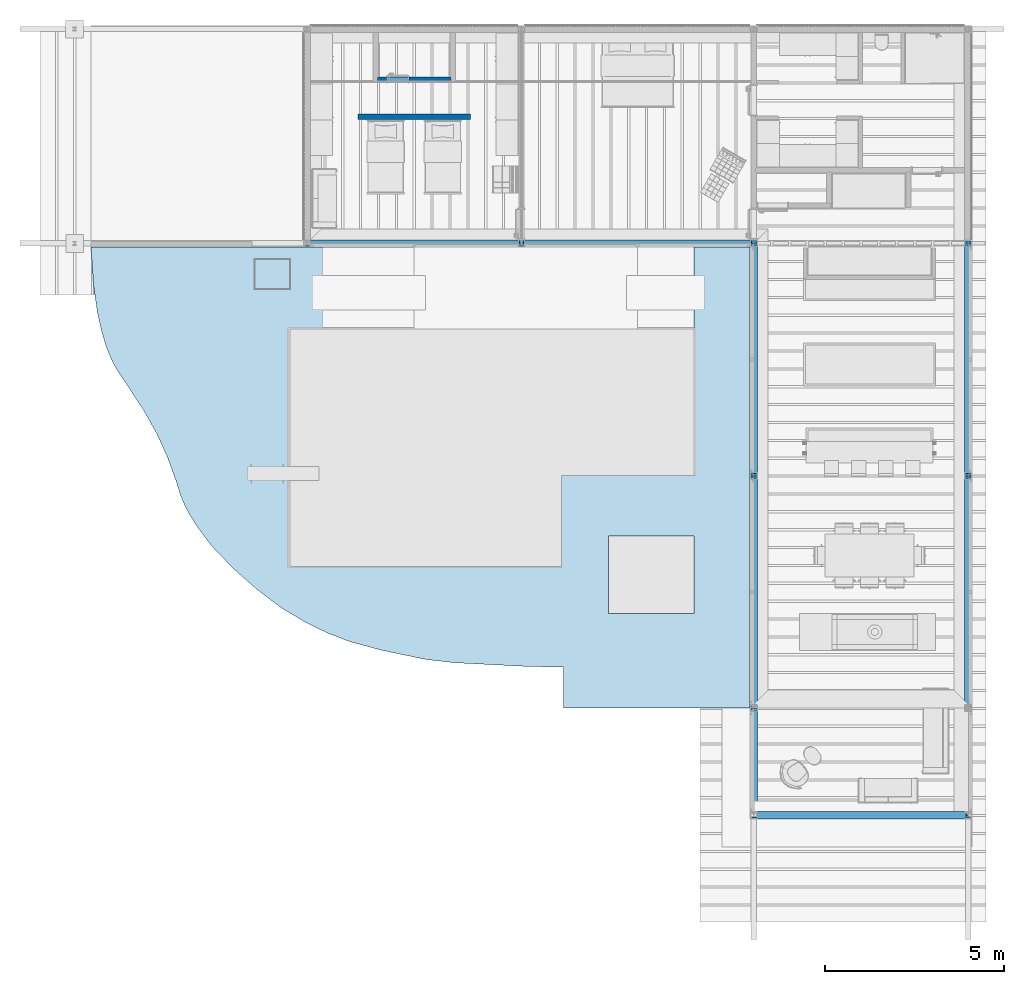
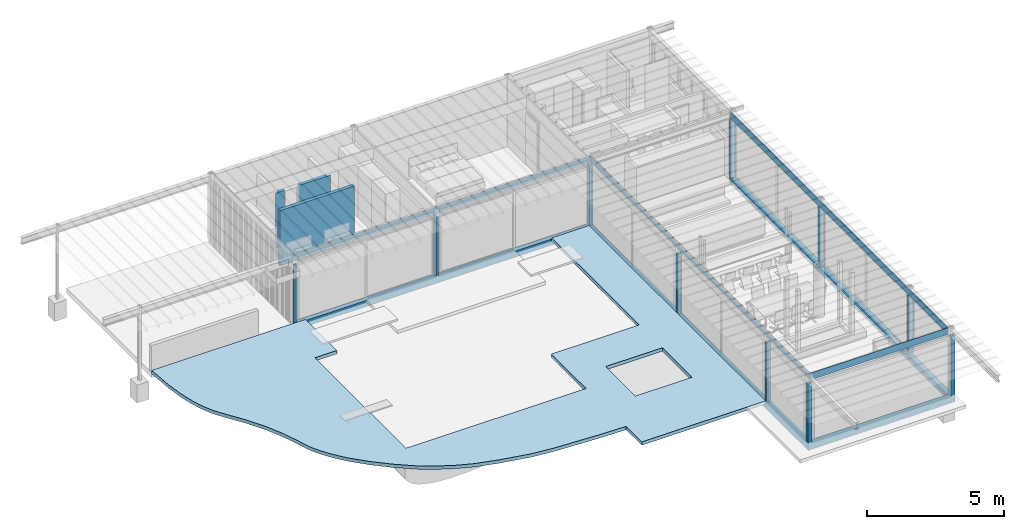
# One storey, part 15 of 28: 6 walls, 1 slab.
"""IFC4X3_ADD2 building model written with IfcOpenShell, lengths in metres."""

from ifc_helpers import new_model, si_unit, direction, frame, origin_with_axes, origin_2d_with_axis, place, context, subcontext, project, spatial, polyline, rectangle, outline, extrude, faceted_brep, source, transform, mapped, material, type_object, type_shapes, element, save


model = new_model("IFC4X3_ADD2")

# Units and contexts
model_context = context("Model", 3, precision=1e-05, world=origin_with_axes(), true_north=direction((0.0, 1.0)))
body_context = subcontext(model_context, "Body", "Model", "MODEL_VIEW")
ifc_project = project(units=[si_unit("LENGTHUNIT", "METRE"), si_unit("AREAUNIT", "SQUARE_METRE"), si_unit("VOLUMEUNIT", "CUBIC_METRE"), si_unit("PLANEANGLEUNIT", "RADIAN"), si_unit("TIMEUNIT", "SECOND"), si_unit("MASSUNIT", "GRAM")], contexts=[model_context])

# Site, building, storey
site_placement = place(None, origin_with_axes())
site = spatial("IfcSite", under=ifc_project, at=site_placement, Name="Site", CompositionType="ELEMENT")
building_placement = place(site_placement, origin_with_axes())
building = spatial("IfcBuilding", under=site, at=building_placement, Name="Default Building")
storey_placement = place(building_placement, frame((0.0, 0.0, -0.08), z_axis=(0.0, 0.0, 1.0), x_axis=(1.0, 0.0, 0.0)))
storey = spatial("IfcBuildingStorey", under=building, at=storey_placement, Name="Gruendung", Elevation=-0.08)

# Slab
ifc_material = material(Name="Concrete")
slab_type = type_object("IfcSlabType", Name="Slab LayerSet_2", PredefinedType="FLOOR", material=ifc_material)
slab_placement = place(storey_placement, frame((0.4532720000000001, 3.0, -0.09999999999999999), z_axis=(0.0, 0.0, 1.0), x_axis=(1.0, 0.0, 0.0)))
element("IfcSlab", 1, at=slab_placement, inside=storey, type_object=slab_type, Name="Floor", ObjectType="Unstyled Roof Face", PredefinedType="FLOOR", context=body_context, shape_type="Brep", body=[
    faceted_brep([(6.492722, 12.9, 0.15), (6.492722, 10.607851, 0.15), (6.492722, 10.607851, 0.0), (6.492722, 12.9, 0.0), (5.565559, 10.607851, 0.15), (5.565559, 10.607851, 0.0), (5.565559, 3.961994, 0.15), (5.565559, 3.961994, 0.0), (13.162517, 3.964482, 0.15), (13.162517, 3.964482, 0.0), (13.162517, 6.5, 0.15), (13.162517, 6.5, 0.0), (16.871728, 6.5, 0.15), (16.871728, 6.5, 0.0), (16.871728, 12.9, 0.15), (16.871728, 12.9, 0.0), (18.446728, 12.9, 0.15), (18.446728, 12.9, 0.0), (18.446728, 0.0, 0.15), (18.446728, 0.0, 0.0), (13.226728, 0.0, 0.15), (13.226728, 0.0, 0.0), (13.226728, 1.142282, 0.15), (13.226728, 1.142282, 0.0), (12.166687, 1.165478, 0.15), (12.166687, 1.165478, 0.0), (10.1743, 1.267076, 0.15), (10.1743, 1.267076, 0.0), (9.387883, 1.356806, 0.15), (9.387883, 1.356806, 0.0), (9.301246, 1.372787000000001, 0.15), (9.301246, 1.372787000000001, 0.0), (8.136341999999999, 1.615945, 0.15), (8.136341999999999, 1.615945, 0.0), (7.286156, 1.847032, 0.15), (7.286156, 1.847032, 0.0), (7.146697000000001, 1.893735, 0.15), (7.146697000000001, 1.893735, 0.0), (6.605493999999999, 2.105564, 0.15), (6.605493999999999, 2.105564, 0.0), (6.028297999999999, 2.385293, 0.15), (6.028297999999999, 2.385293, 0.0), (5.349226, 2.785922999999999, 0.15), (5.349226, 2.785922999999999, 0.0), (4.626223, 3.332188, 0.15), (4.626223, 3.332188, 0.0), (3.967157, 3.917745, 0.15), (3.967157, 3.917745, 0.0), (3.370237, 4.542301, 0.15), (3.370237, 4.542301, 0.0), (3.368178, 4.544844, 0.15), (3.368178, 4.544844, 0.0), (2.986893, 5.054126, 0.15), (2.986893, 5.054126, 0.0), (2.753943, 5.424674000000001, 0.15), (2.753943, 5.424674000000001, 0.0), (2.624395, 5.670671, 0.15), (2.624395, 5.670671, 0.0), (2.525862, 5.897487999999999, 0.15), (2.525862, 5.897487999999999, 0.0), (2.369781, 6.392379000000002, 0.15), (2.369781, 6.392379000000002, 0.0), (2.135258, 7.031647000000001, 0.15), (2.135258, 7.031647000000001, 0.0), (1.842766, 7.677805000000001, 0.15), (1.842766, 7.677805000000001, 0.0), (1.451184, 8.371748, 0.15), (1.451184, 8.371748, 0.0), (0.764689, 9.405428, 0.15), (0.764689, 9.405428, 0.0), (0.653513, 9.597001, 0.15), (0.653513, 9.597001, 0.0), (0.538631, 9.835943, 0.15), (0.538631, 9.835943, 0.0), (0.4202529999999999, 10.140378, 0.15), (0.4202529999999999, 10.140378, 0.0), (0.2998329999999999, 10.538086, 0.15), (0.2998329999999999, 10.538086, 0.0), (0.1814169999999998, 11.073036, 0.15), (0.1814169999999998, 11.073036, 0.0), (0.07453999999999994, 11.817076, 0.15), (0.07453999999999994, 11.817076, 0.0), (0.0, 12.9, 0.15), (0.0, 12.9, 0.0), (14.487837, 2.65, 0.15), (16.871728, 2.65, 0.15), (16.871728, 2.65, 0.0), (14.487837, 2.65, 0.0), (16.871728, 4.815014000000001, 0.15), (16.871728, 4.815014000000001, 0.0), (14.487837, 4.815014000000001, 0.15), (14.487837, 4.815014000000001, 0.0)], [[[0, 1, 2, 3]], [[1, 4, 5, 2]], [[4, 6, 7, 5]], [[6, 8, 9, 7]], [[8, 10, 11, 9]], [[10, 12, 13, 11]], [[12, 14, 15, 13]], [[14, 16, 17, 15]], [[16, 18, 19, 17]], [[18, 20, 21, 19]], [[20, 22, 23, 21]], [[22, 24, 25, 23]], [[24, 26, 27, 25]], [[26, 28, 29, 27]], [[28, 30, 31, 29]], [[30, 32, 33, 31]], [[32, 34, 35, 33]], [[34, 36, 37, 35]], [[36, 38, 39, 37]], [[38, 40, 41, 39]], [[40, 42, 43, 41]], [[42, 44, 45, 43]], [[44, 46, 47, 45]], [[46, 48, 49, 47]], [[48, 50, 51, 49]], [[50, 52, 53, 51]], [[52, 54, 55, 53]], [[54, 56, 57, 55]], [[56, 58, 59, 57]], [[58, 60, 61, 59]], [[60, 62, 63, 61]], [[62, 64, 65, 63]], [[64, 66, 67, 65]], [[66, 68, 69, 67]], [[68, 70, 71, 69]], [[70, 72, 73, 71]], [[72, 74, 75, 73]], [[74, 76, 77, 75]], [[76, 78, 79, 77]], [[78, 80, 81, 79]], [[80, 82, 83, 81]], [[82, 0, 3, 83]], [[84, 85, 86, 87]], [[85, 88, 89, 86]], [[88, 90, 91, 89]], [[85, 84, 90, 88], [10, 8, 6, 4, 1, 0, 82, 80, 78, 76, 74, 72, 70, 68, 66, 64, 62, 60, 58, 56, 54, 52, 50, 48, 46, 44, 42, 40, 38, 36, 34, 32, 30, 28, 26, 24, 22, 20, 18, 16, 14, 12]], [[90, 84, 87, 91]], [[87, 86, 89, 91], [37, 39, 41, 43, 45, 47, 49, 51, 53, 55, 57, 59, 61, 63, 65, 67, 69, 71, 73, 75, 77, 79, 81, 83, 3, 2, 5, 7, 9, 11, 13, 15, 17, 19, 21, 23, 25, 27, 29, 31, 33, 35]]], outer=[[True], [True], [True], [True], [True], [True], [True], [True], [True], [True], [True], [True], [True], [True], [True], [True], [True], [True], [True], [True], [True], [True], [True], [True], [True], [True], [True], [True], [True], [True], [True], [True], [True], [True], [True], [True], [True], [True], [True], [True], [True], [True], [True], [True], [True], [False, True], [True], [False, True]]),
])

# Walls
wall_type_1 = type_object("IfcWallType", Name="W-CASE 20", PredefinedType="NOTDEFINED")
shared_shape_1 = source(origin_with_axes(), body_context, "Body", "Brep", [
    faceted_brep([(16.0, 0.08, 2.76), (16.14, 0.08, 2.76), (16.16, 0.1, 2.76), (16.0, 0.1, 2.76), (13.0, 0.08, 2.76), (13.12, 0.08, 2.76), (13.12, 0.1, 2.76), (13.0, 0.1, 2.76), (0.0, 0.1, 2.76), (0.0, 0.08, 2.76), (0.12, 0.08, 2.76), (0.12, 0.1, 2.76), (6.5, 0.08, 2.76), (6.62, 0.08, 2.76), (6.62, 0.1, 2.76), (6.5, 0.1, 2.76), (13.12, 0.08, 0.08), (13.12, 0.1, 0.08), (16.0, 0.1, 0.08), (16.0, 0.08, 0.08), (13.0, 0.1, 0.08), (13.0, 0.08, 0.08), (6.62, 0.1, 0.08), (6.62, 0.08, 0.08), (0.12, 0.1, 0.08), (0.12, 0.08, 0.08), (6.5, 0.1, 0.08), (6.5, 0.08, 0.08), (0.0, 0.1, -0.2), (0.0, 0.08, -0.2), (16.14, 0.08, -0.2), (16.16, 0.1, -0.2)], [[[0, 1, 2, 3]], [[4, 5, 6, 7]], [[8, 9, 10, 11]], [[12, 13, 14, 15]], [[6, 5, 16, 17]], [[18, 17, 16, 19]], [[3, 18, 19, 0]], [[7, 20, 21, 4]], [[20, 22, 23, 21]], [[22, 14, 13, 23]], [[24, 11, 10, 25]], [[26, 24, 25, 27]], [[26, 27, 12, 15]], [[9, 8, 28, 29]], [[30, 29, 28, 31]], [[1, 0, 19, 16, 5, 4, 21, 23, 13, 12, 27, 25, 10, 9, 29, 30]], [[30, 31, 2, 1]], [[6, 17, 18, 3, 2, 31, 28, 8, 11, 24, 26, 15, 14, 22, 20, 7]]]),
    faceted_brep([(16.0, 0.048, 2.76), (16.108, 0.048, 2.76), (16.14, 0.08, 2.76), (16.0, 0.08, 2.76), (13.0, 0.048, 2.76), (13.12, 0.048, 2.76), (13.12, 0.08, 2.76), (13.0, 0.08, 2.76), (0.0, 0.08, 2.76), (0.0, 0.048, 2.76), (0.12, 0.048, 2.76), (0.12, 0.08, 2.76), (6.5, 0.048, 2.76), (6.62, 0.048, 2.76), (6.62, 0.08, 2.76), (6.5, 0.08, 2.76), (13.12, 0.048, 0.08), (13.12, 0.08, 0.08), (16.0, 0.08, 0.08), (16.0, 0.048, 0.08), (13.0, 0.048, 0.08), (6.62, 0.048, 0.08), (6.5, 0.048, 0.08), (0.12, 0.048, 0.08), (0.0, 0.048, -0.2), (16.108, 0.048, -0.2), (13.0, 0.08, 0.08), (6.62, 0.08, 0.08), (0.12, 0.08, 0.08), (6.5, 0.08, 0.08), (0.0, 0.08, -0.2), (16.14, 0.08, -0.2)], [[[0, 1, 2, 3]], [[4, 5, 6, 7]], [[8, 9, 10, 11]], [[12, 13, 14, 15]], [[6, 5, 16, 17]], [[18, 17, 16, 19]], [[3, 18, 19, 0]], [[4, 20, 21, 13, 12, 22, 23, 10, 9, 24, 25, 1, 0, 19, 16, 5]], [[7, 26, 20, 4]], [[26, 27, 21, 20]], [[27, 14, 13, 21]], [[28, 11, 10, 23]], [[29, 28, 23, 22]], [[29, 22, 12, 15]], [[30, 24, 9, 8]], [[25, 24, 30, 31]], [[2, 1, 25, 31]], [[6, 17, 18, 3, 2, 31, 30, 8, 11, 28, 29, 15, 14, 27, 26, 7]]]),
    faceted_brep([(13.0, -0.08, 2.76), (13.12, -0.08, 2.76), (13.12, 0.048, 2.76), (13.0, 0.048, 2.76), (6.5, -0.08, 2.76), (6.62, -0.08, 2.76), (6.62, 0.048, 2.76), (6.5, 0.048, 2.76), (0.0, 0.048, 2.76), (0.0, -0.08, 2.76), (0.12, -0.08, 2.76), (0.12, 0.048, 2.76), (16.108, 0.048, 2.76), (16.0, 0.048, 2.76), (16.0, -0.06, 2.76), (13.12, -0.08, 0.08), (13.12, 0.048, 0.08), (13.0, -0.08, 0.08), (13.0, 0.048, 0.08), (6.62, -0.08, 0.08), (6.5, -0.08, 0.08), (0.12, -0.08, 0.08), (0.0, -0.08, -0.2), (15.98, -0.08, -0.2), (15.98, -0.08, 0.08), (6.62, 0.048, 0.08), (6.5, 0.048, 0.08), (0.12, 0.048, 0.08), (16.0, 0.048, 0.08), (16.0, -0.06, 0.08), (16.108, 0.048, -0.2), (0.0, 0.048, -0.2)], [[[0, 1, 2, 3]], [[4, 5, 6, 7]], [[8, 9, 10, 11]], [[12, 13, 14]], [[2, 1, 15, 16]], [[17, 0, 3, 18]], [[0, 17, 19, 5, 4, 20, 21, 10, 9, 22, 23, 24, 15, 1]], [[19, 17, 18, 25]], [[5, 19, 25, 6]], [[4, 7, 26, 20]], [[21, 20, 26, 27]], [[10, 21, 27, 11]], [[28, 16, 15, 24, 29]], [[13, 28, 29, 14]], [[12, 14, 29, 24, 23, 30]], [[23, 22, 31, 30]], [[31, 22, 9, 8]], [[2, 16, 28, 13, 12, 30, 31, 8, 11, 27, 26, 7, 6, 25, 18, 3]]]),
    faceted_brep([(0.0, -0.08, 0.0), (0.0, -0.1, 0.0), (0.0, -0.1, 3.06), (0.0, -0.08, 3.06), (15.96, -0.1, 0.0), (15.98, -0.08, 0.0), (15.98, -0.08, 3.06), (15.96, -0.1, 3.06), (15.98, -0.08, 2.76), (15.96, -0.1, 2.76), (15.96, -0.1, 0.08), (15.98, -0.08, 0.08), (13.0, -0.1, 2.76), (6.62, -0.1, 2.76), (6.62, -0.08, 2.76), (13.0, -0.08, 2.76), (6.62, -0.1, 0.08), (6.62, -0.08, 0.08), (13.0, -0.1, 0.08), (13.0, -0.08, 0.08), (6.5, -0.1, 2.76), (0.12, -0.1, 2.76), (0.12, -0.08, 2.76), (6.5, -0.08, 2.76), (0.12, -0.1, 0.08), (0.12, -0.08, 0.08), (6.5, -0.1, 0.08), (6.5, -0.08, 0.08), (13.12, -0.1, 0.08), (13.12, -0.1, 2.76), (13.12, -0.08, 2.76), (13.12, -0.08, 0.08)], [[[0, 1, 2, 3]], [[4, 1, 0, 5]], [[6, 3, 2, 7]], [[8, 6, 7, 9]], [[10, 4, 5, 11]], [[12, 13, 14, 15]], [[13, 16, 17, 14]], [[16, 18, 19, 17]], [[18, 12, 15, 19]], [[20, 21, 22, 23]], [[21, 24, 25, 22]], [[24, 26, 27, 25]], [[20, 23, 27, 26]], [[28, 29, 9, 7, 2, 1, 4, 10], [20, 26, 24, 21], [13, 12, 18, 16]], [[29, 30, 8, 9]], [[28, 31, 30, 29]], [[31, 28, 10, 11]], [[5, 0, 3, 6, 8, 30, 31, 11], [14, 17, 19, 15], [25, 27, 23, 22]]]),
])
type_shapes(wall_type_1, [shared_shape_1])
wall_1_placement = place(storey_placement, frame((25.0, 16.06, -0.08), z_axis=(0.0, 0.0, 1.0), x_axis=(0.0, -1.0, 0.0)))
element("IfcWall", 2, at=wall_1_placement, inside=storey, type_object=wall_type_1, Name="W-CASE 20", ObjectType="W-CASE 20", context=body_context, shape_type="MappedRepresentation", body=[
    mapped(shared_shape_1, transform((0.0, 0.0, 0.0))),
])
wall_type_2 = type_object("IfcWallType", Name="W-CASE 20_1", PredefinedType="NOTDEFINED")
shared_shape_2 = source(origin_with_axes(), body_context, "Body", "SolidModel", [
    faceted_brep([(12.44, 0.08, 2.76), (12.58, 0.08, 2.76), (12.58, 0.1, 2.76), (12.44, 0.1, 2.76), (6.44, 0.08, 2.76), (6.56, 0.08, 2.76), (6.56, 0.1, 2.76), (6.44, 0.1, 2.76), (6.56, 0.1, 0.08), (6.56, 0.08, 0.08), (12.44, 0.08, 0.08), (12.44, 0.1, 0.08), (6.44, 0.08, 0.08), (6.44, 0.1, 0.08), (0.1, 0.1, 0.08), (0.08, 0.08, 0.08), (0.1, 0.1, -0.2), (0.08, 0.08, -0.2), (12.58, 0.08, -0.2), (12.58, 0.1, -0.2)], [[[0, 1, 2, 3]], [[4, 5, 6, 7]], [[8, 6, 5, 9]], [[10, 11, 8, 9]], [[0, 3, 11, 10]], [[12, 13, 14, 15]], [[4, 7, 13, 12]], [[16, 17, 15, 14]], [[18, 17, 16, 19]], [[1, 0, 10, 9, 5, 4, 12, 15, 17, 18]], [[2, 1, 18, 19]], [[14, 13, 7, 6, 8, 11, 3, 2, 19, 16]]]),
    faceted_brep([(12.44, 0.048, 2.76), (12.548, 0.048, 2.76), (12.548, 0.08, 2.76), (12.44, 0.08, 2.76), (6.44, 0.048, 2.76), (6.56, 0.048, 2.76), (6.56, 0.08, 2.76), (6.44, 0.08, 2.76), (0.06, 0.048, 2.76), (0.06, 0.06, 2.76), (0.048, 0.048, 2.76), (6.56, 0.08, 0.08), (6.56, 0.048, 0.08), (12.44, 0.048, 0.08), (12.44, 0.08, 0.08), (6.44, 0.048, 0.08), (0.06, 0.048, 0.08), (0.048, 0.048, -0.2), (12.548, 0.048, -0.2), (6.44, 0.08, 0.08), (0.08, 0.08, 0.08), (0.06, 0.06, 0.08), (0.08, 0.08, -0.2), (12.548, 0.08, -0.2)], [[[0, 1, 2, 3]], [[4, 5, 6, 7]], [[8, 9, 10]], [[11, 6, 5, 12]], [[13, 14, 11, 12]], [[0, 3, 14, 13]], [[1, 0, 13, 12, 5, 4, 15, 16, 8, 10, 17, 18]], [[4, 7, 19, 15]], [[16, 15, 19, 20, 21]], [[16, 21, 9, 8]], [[20, 22, 17, 10, 9, 21]], [[18, 17, 22, 23]], [[2, 1, 18, 23]], [[6, 11, 14, 3, 2, 23, 22, 20, 19, 7]]]),
    extrude(outline(polyline([(1.36, -1.664), (1.36, 1.016), (-5.02, 1.016), (-5.02, -1.664), (-5.16, -1.664), (-5.16, 1.296), (7.34, 1.296), (7.34, 1.016), (1.48, 1.016), (1.48, -1.664), (1.36, -1.664)])), frame((5.08, -0.07999999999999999, 1.096), z_axis=(0.0, 1.0, 0.0), x_axis=(1.0, 0.0, 0.0)), (0.0, 0.0, 1.0), 0.128),
    faceted_brep([(-0.1, -0.1, 3.06), (-0.08, -0.08, 3.06), (-0.08, -0.08, 0.0), (-0.1, -0.1, 0.0), (12.4, -0.1, 0.0), (12.42, -0.08, 0.0), (12.42, -0.08, 3.06), (12.4, -0.1, 3.06), (12.4, -0.1, 2.76), (12.42, -0.08, 2.76), (12.42, -0.08, 0.08), (12.4, -0.1, 0.08), (6.44, -0.1, 2.76), (0.06, -0.1, 2.76), (0.06, -0.08, 2.76), (6.44, -0.08, 2.76), (0.06, -0.1, 0.08), (0.06, -0.08, 0.08), (6.44, -0.1, 0.08), (6.44, -0.08, 0.08), (6.56, -0.1, 0.08), (6.56, -0.1, 2.76), (6.56, -0.08, 0.08), (6.56, -0.08, 2.76)], [[[0, 1, 2, 3]], [[4, 3, 2, 5]], [[6, 1, 0, 7]], [[6, 7, 8, 9]], [[4, 5, 10, 11]], [[12, 13, 14, 15]], [[13, 16, 17, 14]], [[16, 18, 19, 17]], [[18, 12, 15, 19]], [[20, 21, 8, 7, 0, 3, 4, 11], [13, 12, 18, 16]], [[20, 22, 23, 21]], [[8, 21, 23, 9]], [[10, 22, 20, 11]], [[5, 2, 1, 6, 9, 23, 22, 10], [15, 14, 17, 19]]]),
])
type_shapes(wall_type_2, [shared_shape_2])
wall_2_placement = place(storey_placement, frame((19.0, 16.0, -0.08), z_axis=(0.0, 0.0, 1.0), x_axis=(-1.0, 0.0, 0.0)))
element("IfcWall", 3, at=wall_2_placement, inside=storey, type_object=wall_type_2, Name="W-CASE 20", ObjectType="W-CASE 20", context=body_context, shape_type="MappedRepresentation", body=[
    mapped(shared_shape_2, transform((0.0, 0.0, 0.0))),
])
wall_type_3 = type_object("IfcWallType", Name="W-CASE 20_3", PredefinedType="NOTDEFINED")
shared_shape_3 = source(origin_with_axes(), body_context, "Body", "SolidModel", [
    faceted_brep([(9.44, 0.08, 2.76), (9.56, 0.08, 2.76), (9.56, 0.1, 2.76), (9.44, 0.1, 2.76), (-0.1, 0.1, 2.76), (-0.08, 0.08, 2.76), (0.06, 0.08, 2.76), (0.06, 0.1, 2.76), (2.94, 0.08, 2.76), (3.06, 0.08, 2.76), (3.06, 0.1, 2.76), (2.94, 0.1, 2.76), (9.56, 0.08, 0.08), (9.56, 0.1, 0.08), (15.9, 0.1, 0.08), (15.92, 0.08, 0.08), (9.44, 0.1, 0.08), (9.44, 0.08, 0.08), (3.06, 0.1, 0.08), (3.06, 0.08, 0.08), (0.06, 0.1, 0.08), (0.06, 0.08, 0.08), (2.94, 0.1, 0.08), (2.94, 0.08, 0.08), (-0.08, 0.08, -0.2), (15.92, 0.08, -0.2), (-0.1, 0.1, -0.2), (15.9, 0.1, -0.2)], [[[0, 1, 2, 3]], [[4, 5, 6, 7]], [[8, 9, 10, 11]], [[2, 1, 12, 13]], [[14, 13, 12, 15]], [[3, 16, 17, 0]], [[16, 18, 19, 17]], [[18, 10, 9, 19]], [[20, 7, 6, 21]], [[22, 20, 21, 23]], [[22, 23, 8, 11]], [[0, 17, 19, 9, 8, 23, 21, 6, 5, 24, 25, 15, 12, 1]], [[4, 26, 24, 5]], [[25, 24, 26, 27]], [[2, 13, 14, 27, 26, 4, 7, 20, 22, 11, 10, 18, 16, 3]], [[25, 27, 14, 15]]]),
    faceted_brep([(9.44, 0.048, 2.76), (9.56, 0.048, 2.76), (9.56, 0.08, 2.76), (9.44, 0.08, 2.76), (2.94, 0.048, 2.76), (3.06, 0.048, 2.76), (3.06, 0.08, 2.76), (2.94, 0.08, 2.76), (-0.08, 0.08, 2.76), (-0.048, 0.048, 2.76), (0.06, 0.048, 2.76), (0.06, 0.08, 2.76), (15.952, 0.048, 2.76), (15.94, 0.06, 2.76), (15.94, 0.048, 2.76), (9.56, 0.048, 0.08), (9.56, 0.08, 0.08), (9.44, 0.08, 0.08), (9.44, 0.048, 0.08), (3.06, 0.048, 0.08), (2.94, 0.048, 0.08), (0.06, 0.048, 0.08), (-0.048, 0.048, -0.2), (15.952, 0.048, -0.2), (15.94, 0.048, 0.08), (3.06, 0.08, 0.08), (2.94, 0.08, 0.08), (0.06, 0.08, 0.08), (15.92, 0.08, 0.08), (15.94, 0.06, 0.08), (15.92, 0.08, -0.2), (-0.08, 0.08, -0.2)], [[[0, 1, 2, 3]], [[4, 5, 6, 7]], [[8, 9, 10, 11]], [[12, 13, 14]], [[2, 1, 15, 16]], [[3, 17, 18, 0]], [[0, 18, 19, 5, 4, 20, 21, 10, 9, 22, 23, 12, 14, 24, 15, 1]], [[17, 25, 19, 18]], [[25, 6, 5, 19]], [[26, 20, 4, 7]], [[26, 27, 21, 20]], [[27, 11, 10, 21]], [[28, 16, 15, 24, 29]], [[13, 29, 24, 14]], [[30, 28, 29, 13, 12, 23]], [[23, 22, 31, 30]], [[22, 9, 8, 31]], [[25, 17, 3, 2, 16, 28, 30, 31, 8, 11, 27, 26, 7, 6]]]),
    extrude(outline(polyline([(2.326999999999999, -1.375), (2.326999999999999, 1.305), (-4.053000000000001, 1.305), (-4.053000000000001, -1.375), (-4.173, -1.375), (-4.173, 1.305), (-7.053000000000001, 1.305), (-7.053000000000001, -1.375), (-7.161, -1.375), (-7.161, 1.585), (8.838999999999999, 1.585), (8.838999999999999, -1.375), (8.826999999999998, -1.375), (8.826999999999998, 1.305), (2.447, 1.305), (2.447, -1.375), (2.326999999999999, -1.375)])), frame((7.113, -0.08, 1.385), z_axis=(0.0, 1.0, 0.0), x_axis=(1.0, 0.0, 0.0)), (0.0, 0.0, 1.0), 0.128),
    faceted_brep([(0.1, -0.1, 3.06), (0.08, -0.08, 3.06), (0.08, -0.08, 2.76), (0.1, -0.1, 2.76), (0.08, -0.08, 0.0), (0.1, -0.1, 0.0), (0.1, -0.1, 0.08), (0.08, -0.08, 0.08), (16.1, -0.1, 0.0), (16.08, -0.08, 0.0), (15.94, -0.08, 2.76), (15.94, -0.1, 2.76), (9.56, -0.1, 2.76), (9.56, -0.08, 2.76), (9.56, -0.1, 0.08), (9.56, -0.08, 0.08), (15.94, -0.1, 0.08), (15.94, -0.08, 0.08), (9.44, -0.08, 2.76), (9.44, -0.1, 2.76), (3.06, -0.1, 2.76), (3.06, -0.08, 2.76), (3.06, -0.1, 0.08), (3.06, -0.08, 0.08), (9.44, -0.1, 0.08), (9.44, -0.08, 0.08), (2.94, -0.1, 2.76), (2.94, -0.1, 0.08), (16.1, -0.1, 3.06), (2.94, -0.08, 2.76), (2.94, -0.08, 0.08), (16.08, -0.08, 3.06)], [[[0, 1, 2, 3]], [[4, 5, 6, 7]], [[8, 5, 4, 9]], [[10, 11, 12, 13]], [[12, 14, 15, 13]], [[15, 14, 16, 17]], [[17, 16, 11, 10]], [[18, 19, 20, 21]], [[21, 20, 22, 23]], [[23, 22, 24, 25]], [[25, 24, 19, 18]], [[3, 26, 27, 6, 5, 8, 28, 0], [14, 12, 11, 16], [24, 22, 20, 19]], [[29, 26, 3, 2]], [[27, 26, 29, 30]], [[7, 6, 27, 30]], [[31, 1, 0, 28]], [[31, 28, 8, 9]], [[31, 9, 4, 7, 30, 29, 2, 1], [13, 15, 17, 10], [23, 25, 18, 21]]]),
])
type_shapes(wall_type_3, [shared_shape_3])
wall_3_placement = place(storey_placement, frame((19.0, 0.0, -0.08), z_axis=(0.0, 0.0, 1.0), x_axis=(0.0, 1.0, 0.0)))
element("IfcWall", 4, at=wall_3_placement, inside=storey, type_object=wall_type_3, Name="W-CASE 20", ObjectType="W-CASE 20", context=body_context, shape_type="MappedRepresentation", body=[
    mapped(shared_shape_3, transform((0.0, 0.0, 0.0))),
])
wall_type_4 = type_object("IfcWallType", Name="W-CASE 20_5", PredefinedType="NOTDEFINED")
shared_shape_4 = source(origin_with_axes(), body_context, "Body", "Brep", [
    faceted_brep([(-0.08, 0.08, 2.76), (-0.1, 0.1, 2.76), (0.06, 0.1, 2.76), (0.06, 0.08, 2.76), (6.08, 0.08, 2.76), (5.94, 0.08, 2.76), (5.94, 0.1, 2.76), (6.100000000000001, 0.1, 2.76), (6.100000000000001, 0.1, -0.2), (6.08, 0.08, -0.2), (-0.1, 0.1, -0.2), (-0.08, 0.08, -0.2), (5.94, 0.1, 0.08), (0.06, 0.1, 0.08), (0.06, 0.08, 0.08), (5.94, 0.08, 0.08)], [[[0, 1, 2, 3]], [[4, 5, 6, 7]], [[7, 8, 9, 4]], [[8, 10, 11, 9]], [[10, 8, 7, 6, 12, 13, 2, 1]], [[10, 1, 0, 11]], [[9, 11, 0, 3, 14, 15, 5, 4]], [[2, 13, 14, 3]], [[13, 12, 15, 14]], [[12, 6, 5, 15]]]),
    faceted_brep([(-0.08, 0.08, 2.76), (-0.048, 0.048, 2.76), (0.06, 0.048, 2.76), (0.06, 0.08, 2.76), (5.94, 0.048, 2.76), (6.048, 0.048, 2.76), (6.08, 0.08, 2.76), (5.94, 0.08, 2.76), (6.048, 0.048, -0.2), (6.08, 0.08, -0.2), (-0.048, 0.048, -0.2), (-0.08, 0.08, -0.2), (0.06, 0.08, 0.08), (5.94, 0.08, 0.08), (0.06, 0.048, 0.08), (5.94, 0.048, 0.08)], [[[0, 1, 2, 3]], [[4, 5, 6, 7]], [[5, 8, 9, 6]], [[8, 10, 11, 9]], [[0, 3, 12, 13, 7, 6, 9, 11]], [[10, 1, 0, 11]], [[14, 12, 3, 2]], [[15, 13, 12, 14]], [[4, 7, 13, 15]], [[4, 15, 14, 2, 1, 10, 8, 5]]]),
    faceted_brep([(0.06, -0.06, 2.76), (0.06, 0.048, 2.76), (-0.048, 0.048, 2.76), (0.08, -0.08, 0.08), (0.08, -0.08, -0.2), (5.92, -0.08, -0.2), (5.92, -0.08, 0.08), (5.92, 0.048, 0.08), (0.06, 0.048, 0.08), (0.06, -0.06, 0.08), (-0.048, 0.048, -0.2), (5.92, 0.048, -0.2)], [[[0, 1, 2]], [[3, 4, 5, 6]], [[7, 8, 9, 3, 6]], [[9, 8, 1, 0]], [[4, 3, 9, 0, 2, 10]], [[7, 11, 10, 2, 1, 8]], [[5, 11, 7, 6]], [[5, 4, 10, 11]]]),
    faceted_brep([(0.08, -0.08, 0.0), (0.1, -0.1, 0.0), (0.1, -0.1, 0.08), (0.08, -0.08, 0.08), (5.92, -0.08, 0.08), (5.92, -0.08, 0.0), (5.9, -0.1, 0.0), (5.9, -0.1, 0.08)], [[[0, 1, 2, 3]], [[4, 5, 0, 3]], [[6, 1, 0, 5]], [[6, 5, 4, 7]], [[7, 2, 3, 4]], [[2, 1, 6, 7]]]),
    faceted_brep([(0.1, -0.1, 3.06), (0.08, -0.08, 3.06), (0.08, -0.08, 2.76), (0.1, -0.1, 2.76), (5.92, -0.08, 3.06), (5.92, -0.08, 2.76), (5.9, -0.1, 3.06), (5.9, -0.1, 2.76)], [[[0, 1, 2, 3]], [[2, 1, 4, 5]], [[4, 6, 7, 5]], [[2, 5, 7, 3]], [[7, 6, 0, 3]], [[1, 0, 6, 4]]]),
])
type_shapes(wall_type_4, [shared_shape_4])
wall_4_placement = place(storey_placement, frame((25.0, 0.0, -0.08), z_axis=(0.0, 0.0, 1.0), x_axis=(-1.0, 0.0, 0.0)))
element("IfcWall", 5, at=wall_4_placement, inside=storey, type_object=wall_type_4, Name="W-CASE 20", ObjectType="W-CASE 20", context=body_context, shape_type="MappedRepresentation", body=[
    mapped(shared_shape_4, transform((0.0, 0.0, 0.0))),
])
wall_type_5 = type_object("IfcWallType", Name="Gipsständerwand 15 cm11", PredefinedType="NOTDEFINED")
shared_shape_5 = source(origin_with_axes(), body_context, "Body", "SolidModel", [
    faceted_brep([(0.075, 0.075, 2.46), (0.0625, 0.0625, 2.46), (0.297475, 0.0625, 2.46), (0.297475, 0.075, 2.46), (0.932475, 0.0625, 2.46), (2.093482, 0.0625, 2.46), (2.080982, 0.075, 2.46), (0.932475, 0.075, 2.46), (2.080982, 0.075, 0.0), (2.093482, 0.0625, 0.0), (0.075, 0.075, 0.0), (0.0625, 0.0625, 0.0), (0.297475, 0.075, 0.16), (0.932475, 0.075, 0.16), (0.932475, 0.0625, 0.16), (0.297475, 0.0625, 0.16)], [[[0, 1, 2, 3]], [[4, 5, 6, 7]], [[8, 6, 5, 9]], [[10, 8, 9, 11]], [[0, 3, 12, 13, 7, 6, 8, 10]], [[0, 10, 11, 1]], [[4, 14, 15, 2, 1, 11, 9, 5]], [[12, 3, 2, 15]], [[13, 12, 15, 14]], [[13, 14, 4, 7]]]),
    faceted_brep([(0.0625, 0.0625, 2.46), (0.05, 0.05, 2.46), (0.297475, 0.05, 2.46), (0.297475, 0.0625, 2.46), (0.932475, 0.05, 2.46), (2.105982, 0.05, 2.46), (2.093482, 0.0625, 2.46), (0.932475, 0.0625, 2.46), (2.105982, 0.05, 0.0), (2.093482, 0.0625, 0.0), (0.05, 0.05, 0.0), (0.0625, 0.0625, 0.0), (0.932475, 0.05, 0.16), (0.297475, 0.05, 0.16), (0.297475, 0.0625, 0.16), (0.932475, 0.0625, 0.16)], [[[0, 1, 2, 3]], [[4, 5, 6, 7]], [[5, 8, 9, 6]], [[8, 10, 11, 9]], [[10, 1, 0, 11]], [[4, 12, 13, 2, 1, 10, 8, 5]], [[0, 3, 14, 15, 7, 6, 9, 11]], [[14, 3, 2, 13]], [[15, 14, 13, 12]], [[15, 12, 4, 7]]]),
    extrude(outline(polyline([(0.08599200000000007, -1.19), (0.08599200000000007, 1.11), (-0.5490079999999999, 1.11), (-0.5490079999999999, -1.19), (-0.7964829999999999, -1.19), (-0.7964829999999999, 1.27), (1.259499, 1.27), (1.259499, -1.19), (0.08599200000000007, -1.19)])), frame((0.846483, -0.05, 1.27), z_axis=(0.0, 1.0, 0.0), x_axis=(1.0, 0.0, 0.0)), (0.0, 0.0, 1.0), 0.09999999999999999),
    faceted_brep([(-0.05, -0.05, 2.46), (-0.0625, -0.0625, 2.46), (0.297475, -0.0625, 2.46), (0.297475, -0.05, 2.46), (0.932475, -0.0625, 2.46), (2.218482, -0.0625, 2.46), (2.205982, -0.05, 2.46), (0.932475, -0.05, 2.46), (2.205982, -0.05, 0.0), (2.218482, -0.0625, 0.0), (-0.0625, -0.0625, 0.0), (-0.05, -0.05, 0.0), (0.932475, -0.0625, 0.16), (0.297475, -0.0625, 0.16), (0.297475, -0.05, 0.16), (0.932475, -0.05, 0.16)], [[[0, 1, 2, 3]], [[4, 5, 6, 7]], [[8, 6, 5, 9]], [[8, 9, 10, 11]], [[0, 11, 10, 1]], [[4, 12, 13, 2, 1, 10, 9, 5]], [[3, 14, 15, 7, 6, 8, 11, 0]], [[14, 3, 2, 13]], [[15, 14, 13, 12]], [[15, 12, 4, 7]]]),
    faceted_brep([(-0.0625, -0.0625, 2.46), (-0.075, -0.075, 2.46), (0.297475, -0.075, 2.46), (0.297475, -0.0625, 2.46), (0.932475, -0.075, 2.46), (2.230982, -0.075, 2.46), (2.218482, -0.0625, 2.46), (0.932475, -0.0625, 2.46), (2.230982, -0.075, 0.0), (2.218482, -0.0625, 0.0), (-0.075, -0.075, 0.0), (-0.0625, -0.0625, 0.0), (0.297475, -0.0625, 0.16), (0.932475, -0.0625, 0.16), (0.932475, -0.075, 0.16), (0.297475, -0.075, 0.16)], [[[0, 1, 2, 3]], [[4, 5, 6, 7]], [[5, 8, 9, 6]], [[8, 10, 11, 9]], [[0, 3, 12, 13, 7, 6, 9, 11]], [[10, 1, 0, 11]], [[4, 14, 15, 2, 1, 10, 8, 5]], [[2, 15, 12, 3]], [[15, 14, 13, 12]], [[4, 7, 13, 14]]]),
])
type_shapes(wall_type_5, [shared_shape_5])
wall_5_placement = place(storey_placement, frame((8.425, 20.58571163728, -0.08), z_axis=(0.0, 0.0, 1.0), x_axis=(1.0, 0.0, 0.0)))
element("IfcWall", 6, at=wall_5_placement, inside=storey, type_object=wall_type_5, Name="Gipsständerwand 15 cm", ObjectType="Gipsständerwand 15 cm", context=body_context, shape_type="MappedRepresentation", body=[
    mapped(shared_shape_5, transform((0.0, 0.0, 0.0))),
])
wall_type_6 = type_object("IfcWallType", Name="Gipsständerwand 15 cm15", PredefinedType="NOTDEFINED")
shared_shape_6 = source(origin_with_axes(), body_context, "Body", "SolidModel", [
    faceted_brep([(3.1415, -0.0625, 0.0), (3.1415, -0.0625, 2.46), (3.1415, 0.0625, 2.46), (3.1415, 0.0625, 0.0), (0.0125, 0.0625, 0.0), (0.0125, 0.0625, 2.46), (0.0125, -0.0625, 2.46), (0.0125, -0.0625, 0.0), (3.154, 0.075, 0.0), (0.0, 0.075, 0.0), (0.0, 0.075, 2.46), (3.154, 0.075, 2.46), (0.0, -0.075, 2.46), (0.0, -0.075, 0.0), (3.154, -0.075, 2.46), (3.154, -0.075, 0.0)], [[[0, 1, 2, 3]], [[4, 5, 6, 7]], [[1, 0, 7, 6]], [[8, 9, 10, 11]], [[12, 10, 9, 13]], [[3, 2, 5, 4]], [[14, 12, 13, 15]], [[14, 11, 10, 12], [5, 2, 1, 6]], [[11, 14, 15, 8]], [[8, 15, 13, 9], [7, 0, 3, 4]]]),
    faceted_brep([(3.1415, -0.0625, 2.46), (0.0125, -0.0625, 2.46), (0.0125, -0.0625, 0.0), (3.1415, -0.0625, 0.0), (3.129, 0.05, 2.46), (3.129, 0.05, 0.0), (3.129, -0.05, 0.0), (3.129, -0.05, 2.46), (0.025, -0.05, 2.46), (0.025, -0.05, 0.0), (0.025, 0.05, 0.0), (0.025, 0.05, 2.46), (3.1415, 0.0625, 0.0), (0.0125, 0.0625, 0.0), (0.0125, 0.0625, 2.46), (3.1415, 0.0625, 2.46)], [[[0, 1, 2, 3]], [[4, 5, 6, 7]], [[8, 9, 10, 11]], [[4, 11, 10, 5]], [[12, 13, 14, 15]], [[6, 9, 8, 7]], [[3, 2, 13, 12], [10, 9, 6, 5]], [[1, 14, 13, 2]], [[1, 0, 15, 14], [4, 7, 8, 11]], [[15, 0, 3, 12]]]),
    extrude(rectangle(XDim=3.104, YDim=0.1, at=origin_2d_with_axis()), frame((1.577, 0.0, 0.0), z_axis=(0.0, 0.0, 1.0), x_axis=(1.0, 0.0, 0.0)), (0.0, 0.0, 1.0), 2.46),
])
type_shapes(wall_type_6, [shared_shape_6])
wall_6_placement = place(storey_placement, frame((7.92287891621, 19.54333333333, -0.08), z_axis=(0.0, 0.0, 1.0), x_axis=(1.0, 0.0, 0.0)))
element("IfcWall", 7, at=wall_6_placement, inside=storey, type_object=wall_type_6, Name="Gipsständerwand 15 cm", ObjectType="Gipsständerwand 15 cm", context=body_context, shape_type="MappedRepresentation", body=[
    mapped(shared_shape_6, transform((0.0, 0.0, 0.0))),
])

save(model, "model.ifc")
